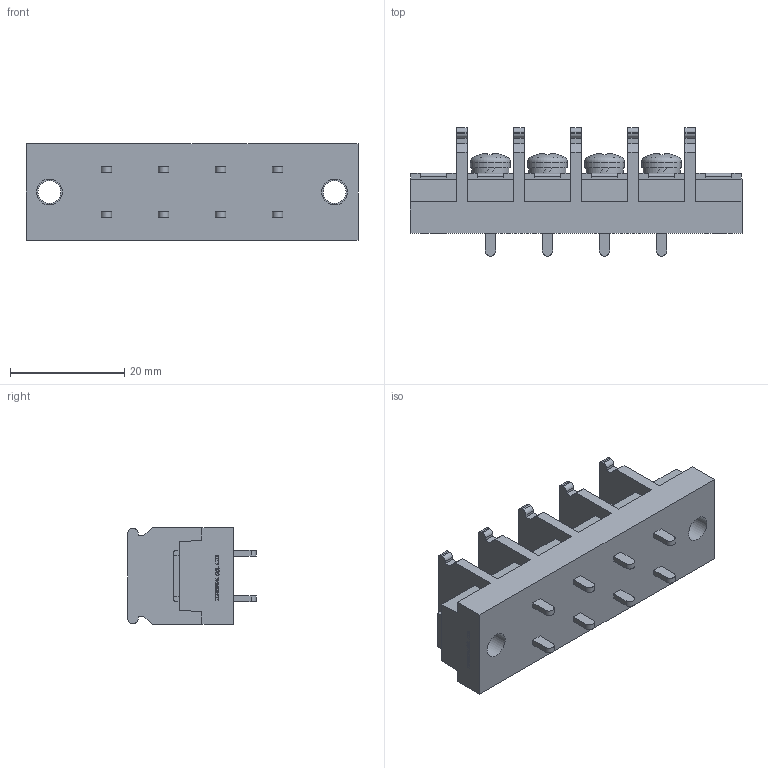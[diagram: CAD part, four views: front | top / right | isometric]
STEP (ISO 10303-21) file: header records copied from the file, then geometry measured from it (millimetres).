
FILE_DESCRIPTION(/* description */ ('Alibre Inc.'),/* implementation_level */ '2;1');
FILE_NAME(/* name */ 'export0',/* time_stamp */ '2015-10-17T15:43:43+09:00',/* author */ (''),/* organization */ (''),/* preprocessor_version */ 'ST-DEVELOPER v14',/* originating_system */ 'Alibre',/* authorisation */ '');
FILE_SCHEMA (('CONFIG_CONTROL_DESIGN'));
Length unit declared in the file: centimetre
Products named in the file (1): ID_1
Bounding box: 58.2 x 22.5 x 17 mm (x, y, z)
Volume: 10298.9 mm3; surface area: 6272.5 mm2
Topology: 1 solids, 17 shells, 732 faces, 1962 edges, 1304 vertices
Faces by surface type: plane 544, bspline 104, cylinder 56, cone 16, torus 8, sphere 4
Full cylindrical faces by diameter (mm): 4 x6, 4.5 x2, 6.5 x4, 7 x4
Entity records: 22102 total; most frequent: CARTESIAN_POINT 4999, ORIENTED_EDGE 3860, DIRECTION 2614, EDGE_CURVE 1930, VECTOR 1460, LINE 1460, VERTEX_POINT 1292, AXIS2_PLACEMENT_3D 839
